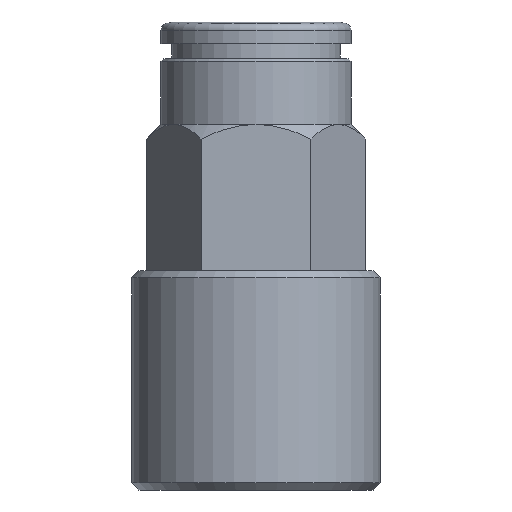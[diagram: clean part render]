
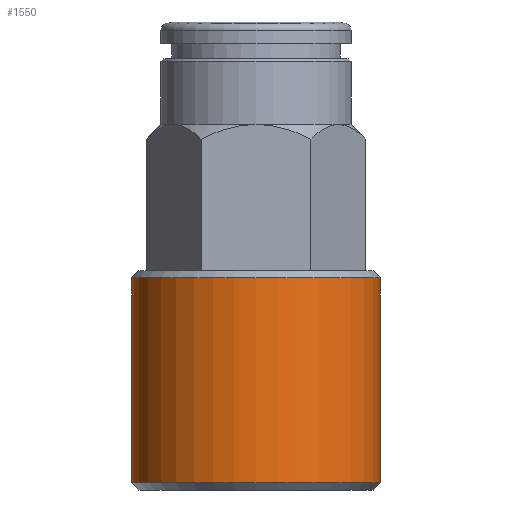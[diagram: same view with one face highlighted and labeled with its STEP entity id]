
A CAD part, front view. The second image highlights one B-rep face of the part: STEP entity #1550.
In plain terms, the highlighted cylindrical face has radius 8.5 mm (diameter 17 mm), a full revolution.
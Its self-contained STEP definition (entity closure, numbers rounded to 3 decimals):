
#1550=ADVANCED_FACE('', (#1560,#1570), #1580, .T.);
#4350=AXIS2_PLACEMENT_3D('Ax2Pl3d', #4360, #4370, #4380);
#5110=AXIS2_PLACEMENT_3D('Ax2Pl3d', #5120, #5130, #5140);
#5150=AXIS2_PLACEMENT_3D('Ax2Pl3d', #5160, #5170, #5180);
#4360=CARTESIAN_POINT('HicPkt', (6.578,16.409,
14.348));
#7010=CARTESIAN_POINT('', (6.578,7.909,14.348));
#5120=CARTESIAN_POINT('HicPkt', (6.578,16.409,
0.348));
#7210=CARTESIAN_POINT('', (6.578,7.909,0.348));
#5160=CARTESIAN_POINT('HicPkt', (6.578,16.409,
14.348));
#7560=CIRCLE('Circle', #4350, 8.5);
#7640=CIRCLE('Circle', #5110, 8.5);
#1580=CYLINDRICAL_SURFACE('Zyl', #5150, 8.5);
#4370=DIRECTION('Axis', (0.,0.,1.));
#4380=DIRECTION('RefDirection', (1.,0.,-0.));
#5130=DIRECTION('Axis', (0.,0.,-1.));
#5140=DIRECTION('RefDirection', (-1.,-0.,0.));
#5170=DIRECTION('Axis', (0.,0.,-1.));
#5180=DIRECTION('RefDirection', (-1.,-0.,0.));
#10760=EDGE_CURVE('', #10770, #10770, #7560, .T.);
#11220=EDGE_CURVE('', #11230, #11230, #7640, .T.);
#13060=EDGE_LOOP('Edge_loop', (#13070));
#13080=EDGE_LOOP('Edge_loop', (#13090));
#1570=FACE_BOUND('', #13080, .T.);
#1560=FACE_OUTER_BOUND('Face_outer_bound', #13060, .T.);
#13070=ORIENTED_EDGE('', *, *, #10760, .F.);
#13090=ORIENTED_EDGE('', *, *, #11220, .F.);
#10770=VERTEX_POINT('', #7010);
#11230=VERTEX_POINT('', #7210);
